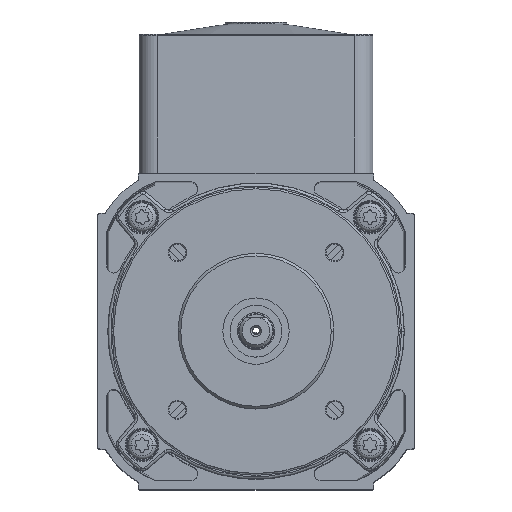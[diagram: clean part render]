
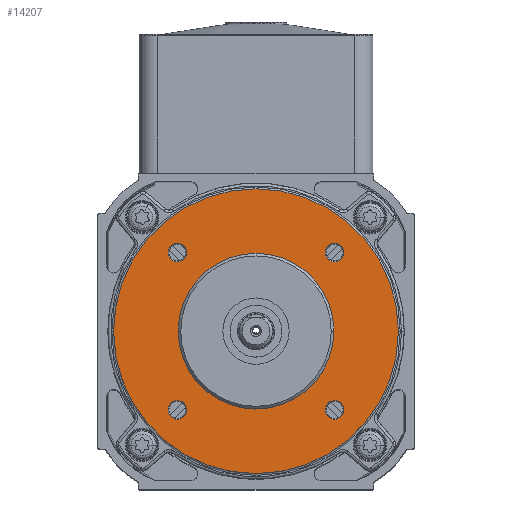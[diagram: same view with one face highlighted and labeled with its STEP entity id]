
A CAD part, top view. The second image highlights one B-rep face of the part: STEP entity #14207.
In plain terms, the highlighted planar face has unit normal (0, 0, 1).
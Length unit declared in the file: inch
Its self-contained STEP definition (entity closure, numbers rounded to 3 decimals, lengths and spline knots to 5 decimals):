
#12687 = EDGE_CURVE ( 'NONE', #28944, #12689, #26831, .T. ) ;
#12689 = VERTEX_POINT ( 'NONE', #26826 ) ;
#14040 = EDGE_CURVE ( 'NONE', #12689, #28944, #28791, .T. ) ;
#14083 = EDGE_CURVE ( 'NONE', #29505, #29499, #28874, .T. ) ;
#14100 = EDGE_CURVE ( 'NONE', #29382, #29369, #28858, .T. ) ;
#14117 = EDGE_CURVE ( 'NONE', #29522, #29538, #28909, .T. ) ;
#14167 = ORIENTED_EDGE ( 'NONE', *, *, #14203, .F. ) ;
#14168 = ORIENTED_EDGE ( 'NONE', *, *, #29325, .F. ) ;
#14169 = EDGE_LOOP ( 'NONE', ( #14170, #14172 ) ) ;
#14170 = ORIENTED_EDGE ( 'NONE', *, *, #14083, .F. ) ;
#14172 = ORIENTED_EDGE ( 'NONE', *, *, #29374, .F. ) ;
#14174 = EDGE_LOOP ( 'NONE', ( #14177, #14179 ) ) ;
#14177 = ORIENTED_EDGE ( 'NONE', *, *, #14100, .F. ) ;
#14179 = ORIENTED_EDGE ( 'NONE', *, *, #29388, .F. ) ;
#14181 = EDGE_LOOP ( 'NONE', ( #14182, #14183 ) ) ;
#14182 = ORIENTED_EDGE ( 'NONE', *, *, #14117, .F. ) ;
#14183 = ORIENTED_EDGE ( 'NONE', *, *, #29526, .F. ) ;
#14185 = EDGE_LOOP ( 'NONE', ( #14280, #14282 ) ) ;
#14203 = EDGE_CURVE ( 'NONE', #29324, #29306, #38873, .T. ) ;
#14207 = ADVANCED_FACE ( 'NONE', ( #38929, #38928, #38927, #38926, #38925, #38924 ), #38923, .F. ) ;
#14209 = EDGE_LOOP ( 'NONE', ( #14167, #14168 ) ) ;
#14280 = ORIENTED_EDGE ( 'NONE', *, *, #12687, .F. ) ;
#14282 = ORIENTED_EDGE ( 'NONE', *, *, #14040, .F. ) ;
#14283 = EDGE_LOOP ( 'NONE', ( #14284, #14285 ) ) ;
#14284 = ORIENTED_EDGE ( 'NONE', *, *, #29237, .F. ) ;
#14285 = ORIENTED_EDGE ( 'NONE', *, *, #14287, .F. ) ;
#14287 = EDGE_CURVE ( 'NONE', #29231, #29239, #38984, .T. ) ;
#26826 = CARTESIAN_POINT ( 'NONE',  ( -0.875, 0., 4.94 ) ) ;
#26827 = DIRECTION ( 'NONE',  ( -1., 0., 0. ) ) ;
#26828 = DIRECTION ( 'NONE',  ( 0., 0., 1. ) ) ;
#26829 = CARTESIAN_POINT ( 'NONE',  ( 0., 0., 4.94 ) ) ;
#26830 = AXIS2_PLACEMENT_3D ( 'NONE', #26829, #26828, #26827 ) ;
#26831 = CIRCLE ( 'NONE', #26830, 0.875 ) ;
#28783 = DIRECTION ( 'NONE',  ( 0., 0., 1. ) ) ;
#28785 = CARTESIAN_POINT ( 'NONE',  ( 0., 0., 4.94 ) ) ;
#28786 = AXIS2_PLACEMENT_3D ( 'NONE', #28785, #28783, #28845 ) ;
#28791 = CIRCLE ( 'NONE', #28786, 0.875 ) ;
#28845 = DIRECTION ( 'NONE',  ( -1., 0., 0. ) ) ;
#28854 = DIRECTION ( 'NONE',  ( 1., 0., 0. ) ) ;
#28855 = DIRECTION ( 'NONE',  ( 0., 0., 1. ) ) ;
#28856 = CARTESIAN_POINT ( 'NONE',  ( -0.88388, -0.88388, 4.94 ) ) ;
#28857 = AXIS2_PLACEMENT_3D ( 'NONE', #28856, #28855, #28854 ) ;
#28858 = CIRCLE ( 'NONE', #28857, 0.105 ) ;
#28870 = DIRECTION ( 'NONE',  ( 1., 0., 0. ) ) ;
#28871 = DIRECTION ( 'NONE',  ( 0., 0., 1. ) ) ;
#28872 = CARTESIAN_POINT ( 'NONE',  ( 0.88388, -0.88388, 4.94 ) ) ;
#28873 = AXIS2_PLACEMENT_3D ( 'NONE', #28872, #28871, #28870 ) ;
#28874 = CIRCLE ( 'NONE', #28873, 0.105 ) ;
#28905 = DIRECTION ( 'NONE',  ( 1., 0., 0. ) ) ;
#28906 = DIRECTION ( 'NONE',  ( 0., 0., 1. ) ) ;
#28907 = CARTESIAN_POINT ( 'NONE',  ( -0.88388, 0.88388, 4.94 ) ) ;
#28908 = AXIS2_PLACEMENT_3D ( 'NONE', #28907, #28906, #28905 ) ;
#28909 = CIRCLE ( 'NONE', #28908, 0.105 ) ;
#28944 = VERTEX_POINT ( 'NONE', #36632 ) ;
#29231 = VERTEX_POINT ( 'NONE', #37138 ) ;
#29237 = EDGE_CURVE ( 'NONE', #29239, #29231, #37133, .T. ) ;
#29239 = VERTEX_POINT ( 'NONE', #37128 ) ;
#29306 = VERTEX_POINT ( 'NONE', #37216 ) ;
#29324 = VERTEX_POINT ( 'NONE', #37272 ) ;
#29325 = EDGE_CURVE ( 'NONE', #29306, #29324, #37271, .T. ) ;
#29369 = VERTEX_POINT ( 'NONE', #37363 ) ;
#29374 = EDGE_CURVE ( 'NONE', #29499, #29505, #37351, .T. ) ;
#29382 = VERTEX_POINT ( 'NONE', #37338 ) ;
#29388 = EDGE_CURVE ( 'NONE', #29369, #29382, #37395, .T. ) ;
#29499 = VERTEX_POINT ( 'NONE', #37514 ) ;
#29505 = VERTEX_POINT ( 'NONE', #37501 ) ;
#29522 = VERTEX_POINT ( 'NONE', #37548 ) ;
#29526 = EDGE_CURVE ( 'NONE', #29538, #29522, #37542, .T. ) ;
#29538 = VERTEX_POINT ( 'NONE', #37577 ) ;
#36632 = CARTESIAN_POINT ( 'NONE',  ( 0.875, 0., 4.94 ) ) ;
#37128 = CARTESIAN_POINT ( 'NONE',  ( -1.60087, 0., 4.94 ) ) ;
#37129 = DIRECTION ( 'NONE',  ( -1., 0., 0. ) ) ;
#37130 = DIRECTION ( 'NONE',  ( 0., 0., -1. ) ) ;
#37131 = CARTESIAN_POINT ( 'NONE',  ( 0., 0., 4.94 ) ) ;
#37132 = AXIS2_PLACEMENT_3D ( 'NONE', #37131, #37130, #37129 ) ;
#37133 = CIRCLE ( 'NONE', #37132, 1.60087 ) ;
#37138 = CARTESIAN_POINT ( 'NONE',  ( 1.60087, 0., 4.94 ) ) ;
#37216 = CARTESIAN_POINT ( 'NONE',  ( 0.77888, 0.88388, 4.94 ) ) ;
#37267 = DIRECTION ( 'NONE',  ( 1., 0., 0. ) ) ;
#37268 = DIRECTION ( 'NONE',  ( 0., 0., 1. ) ) ;
#37269 = CARTESIAN_POINT ( 'NONE',  ( 0.88388, 0.88388, 4.94 ) ) ;
#37270 = AXIS2_PLACEMENT_3D ( 'NONE', #37269, #37268, #37267 ) ;
#37271 = CIRCLE ( 'NONE', #37270, 0.105 ) ;
#37272 = CARTESIAN_POINT ( 'NONE',  ( 0.98888, 0.88388, 4.94 ) ) ;
#37338 = CARTESIAN_POINT ( 'NONE',  ( -0.77888, -0.88388, 4.94 ) ) ;
#37347 = DIRECTION ( 'NONE',  ( 1., 0., 0. ) ) ;
#37348 = DIRECTION ( 'NONE',  ( 0., 0., 1. ) ) ;
#37349 = CARTESIAN_POINT ( 'NONE',  ( 0.88388, -0.88388, 4.94 ) ) ;
#37350 = AXIS2_PLACEMENT_3D ( 'NONE', #37349, #37348, #37347 ) ;
#37351 = CIRCLE ( 'NONE', #37350, 0.105 ) ;
#37363 = CARTESIAN_POINT ( 'NONE',  ( -0.98888, -0.88388, 4.94 ) ) ;
#37391 = DIRECTION ( 'NONE',  ( 1., 0., 0. ) ) ;
#37392 = DIRECTION ( 'NONE',  ( 0., 0., 1. ) ) ;
#37393 = CARTESIAN_POINT ( 'NONE',  ( -0.88388, -0.88388, 4.94 ) ) ;
#37394 = AXIS2_PLACEMENT_3D ( 'NONE', #37393, #37392, #37391 ) ;
#37395 = CIRCLE ( 'NONE', #37394, 0.105 ) ;
#37501 = CARTESIAN_POINT ( 'NONE',  ( 0.98888, -0.88388, 4.94 ) ) ;
#37514 = CARTESIAN_POINT ( 'NONE',  ( 0.77888, -0.88388, 4.94 ) ) ;
#37538 = DIRECTION ( 'NONE',  ( 1., 0., 0. ) ) ;
#37539 = DIRECTION ( 'NONE',  ( 0., 0., 1. ) ) ;
#37540 = CARTESIAN_POINT ( 'NONE',  ( -0.88388, 0.88388, 4.94 ) ) ;
#37541 = AXIS2_PLACEMENT_3D ( 'NONE', #37540, #37539, #37538 ) ;
#37542 = CIRCLE ( 'NONE', #37541, 0.105 ) ;
#37548 = CARTESIAN_POINT ( 'NONE',  ( -0.77888, 0.88388, 4.94 ) ) ;
#37577 = CARTESIAN_POINT ( 'NONE',  ( -0.98888, 0.88388, 4.94 ) ) ;
#38866 = DIRECTION ( 'NONE',  ( 0., 0., 1. ) ) ;
#38867 = CARTESIAN_POINT ( 'NONE',  ( 0.88388, 0.88388, 4.94 ) ) ;
#38868 = AXIS2_PLACEMENT_3D ( 'NONE', #38867, #38866, #38930 ) ;
#38873 = CIRCLE ( 'NONE', #38868, 0.105 ) ;
#38919 = DIRECTION ( 'NONE',  ( -1., 0., 0. ) ) ;
#38920 = DIRECTION ( 'NONE',  ( 0., 0., -1. ) ) ;
#38921 = CARTESIAN_POINT ( 'NONE',  ( 0., 0., 4.94 ) ) ;
#38922 = AXIS2_PLACEMENT_3D ( 'NONE', #38921, #38920, #38919 ) ;
#38923 = PLANE ( 'NONE',  #38922 ) ;
#38924 = FACE_OUTER_BOUND ( 'NONE', #14283, .T. ) ;
#38925 = FACE_BOUND ( 'NONE', #14185, .T. ) ;
#38926 = FACE_BOUND ( 'NONE', #14181, .T. ) ;
#38927 = FACE_BOUND ( 'NONE', #14174, .T. ) ;
#38928 = FACE_BOUND ( 'NONE', #14169, .T. ) ;
#38929 = FACE_BOUND ( 'NONE', #14209, .T. ) ;
#38930 = DIRECTION ( 'NONE',  ( 1., 0., 0. ) ) ;
#38980 = DIRECTION ( 'NONE',  ( -1., 0., 0. ) ) ;
#38981 = DIRECTION ( 'NONE',  ( 0., 0., -1. ) ) ;
#38982 = CARTESIAN_POINT ( 'NONE',  ( 0., 0., 4.94 ) ) ;
#38983 = AXIS2_PLACEMENT_3D ( 'NONE', #38982, #38981, #38980 ) ;
#38984 = CIRCLE ( 'NONE', #38983, 1.60087 ) ;
